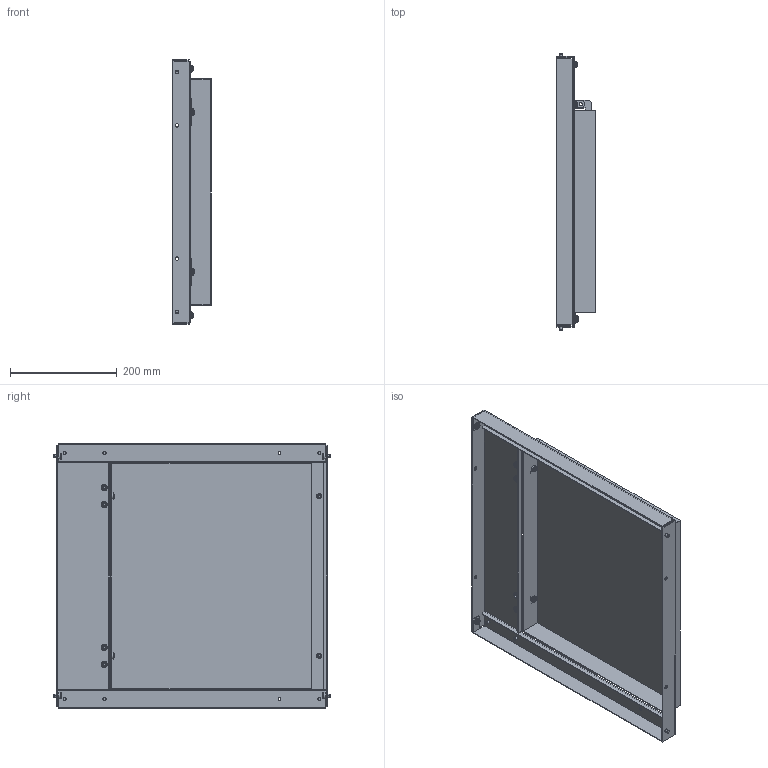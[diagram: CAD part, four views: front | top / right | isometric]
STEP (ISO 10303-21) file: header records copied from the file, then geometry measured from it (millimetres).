
FILE_DESCRIPTION (( 'STEP AP214' ), '1' );
FILE_NAME ('FO-00-MPR-050-060 Ïàíåëü ìîíòàæíàÿ ïîâîðîòíàÿ 500?600 ìì.STEP', '2025-08-20T07:17:55', ( '' ), ( '' ), 'SwSTEP 2.0', 'SolidWorks 2023', '' );
FILE_SCHEMA (( 'AUTOMOTIVE_DESIGN' ));
Length unit declared in the file: millimetre
Products named in the file (3): Панель монтажная 500x600 мм; FO-00-MPR-050-060 Панель монтажная поворотная 500×600 мм; Панель монтажная поворотная 500x600 мм
Assembly tree (2 placements, depth 2):
  FO-00-MPR-050-060 Панель монтажная поворотная 500×600 мм
    Панель монтажная поворотная 500x600 мм
    Панель монтажная 500x600 мм
Bounding box: 73 x 518.4 x 496 mm (x, y, z)
Volume: 793989.4 mm3; surface area: 823376.6 mm2
Topology: 2 solids, 18 shells, 891 faces, 2228 edges, 1439 vertices
Faces by surface type: cylinder 459, plane 284, cone 76, torus 72
Entity records: 27480 total; most frequent: DIRECTION 5154, CARTESIAN_POINT 4911, ORIENTED_EDGE 4456, EDGE_CURVE 2228, AXIS2_PLACEMENT_3D 2046, VERTEX_POINT 1439, CIRCLE 1150, VECTOR 1062
